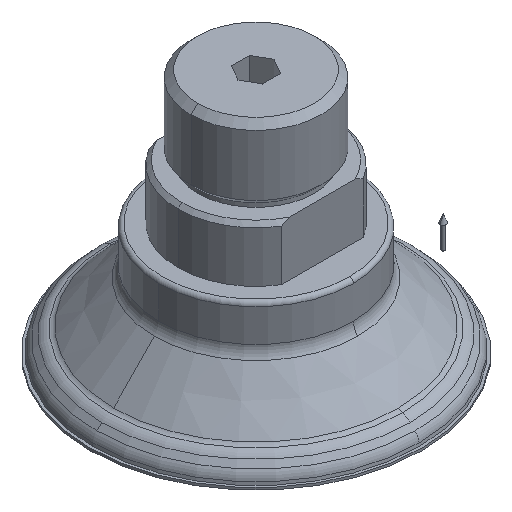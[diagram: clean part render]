
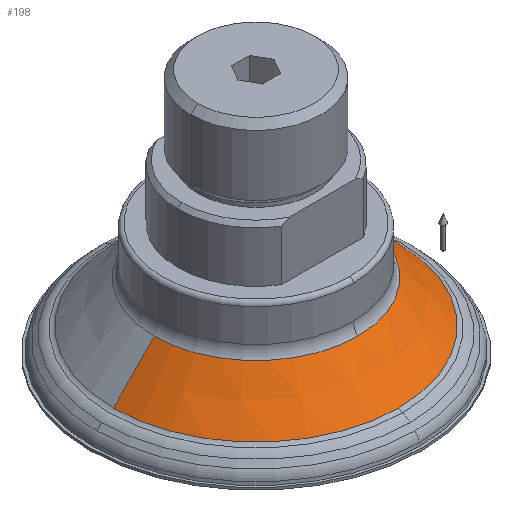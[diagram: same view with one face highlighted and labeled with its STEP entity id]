
A CAD part, isometric view. The second image highlights one B-rep face of the part: STEP entity #198.
In plain terms, the highlighted conical face has half-angle 44 degrees and reference radius 15.659 mm.
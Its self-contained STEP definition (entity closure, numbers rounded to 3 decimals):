
#198=ADVANCED_FACE('',(#478),#479,.T.);
#478=FACE_OUTER_BOUND('',#853,.T.);
#479=CONICAL_SURFACE('',#854,15.659,0.768);
#853=EDGE_LOOP('',(#1373,#1374,#1375,#1376,#1377,#1378));
#854=AXIS2_PLACEMENT_3D('',#1379,#1380,#1381);
#1373=ORIENTED_EDGE('',*,*,#2269,.F.);
#1374=ORIENTED_EDGE('',*,*,#2270,.T.);
#1375=ORIENTED_EDGE('',*,*,#2271,.T.);
#1376=ORIENTED_EDGE('',*,*,#2272,.F.);
#1377=ORIENTED_EDGE('',*,*,#2264,.F.);
#1378=ORIENTED_EDGE('',*,*,#2273,.F.);
#1379=CARTESIAN_POINT('',(0.0,0.,6.232));
#1380=DIRECTION('',(0.0,0.,-1.0));
#1381=DIRECTION('',(1.0,0.0,0.0));
#2264=EDGE_CURVE('',#2728,#2730,#2731,.T.);
#2269=EDGE_CURVE('',#2737,#2738,#2739,.T.);
#2270=EDGE_CURVE('',#2737,#2740,#2741,.T.);
#2271=EDGE_CURVE('',#2740,#2742,#2743,.T.);
#2272=EDGE_CURVE('',#2730,#2742,#2744,.T.);
#2273=EDGE_CURVE('',#2738,#2728,#2745,.T.);
#2728=VERTEX_POINT('',#3313);
#2730=VERTEX_POINT('',#3315);
#2731=CIRCLE('',#3316,18.257);
#2737=VERTEX_POINT('',#3322);
#2738=VERTEX_POINT('',#3323);
#2739=LINE('',#3324,#3325);
#2740=VERTEX_POINT('',#3326);
#2741=CIRCLE('',#3327,13.061);
#2742=VERTEX_POINT('',#3328);
#2743=CIRCLE('',#3329,13.061);
#2744=LINE('',#3330,#3331);
#2745=CIRCLE('',#3332,18.257);
#3313=CARTESIAN_POINT('',(0.,-18.257,3.542));
#3315=CARTESIAN_POINT('',(-18.257,0.,3.542));
#3316=AXIS2_PLACEMENT_3D('',#4006,#4007,#4008);
#3322=CARTESIAN_POINT('',(13.061,0.,8.923));
#3323=CARTESIAN_POINT('',(18.257,0.,3.542));
#3324=CARTESIAN_POINT('',(15.659,0.,6.232));
#3325=VECTOR('',#4018,1.0);
#3326=CARTESIAN_POINT('',(0.,-13.061,8.923));
#3327=AXIS2_PLACEMENT_3D('',#4019,#4020,#4021);
#3328=CARTESIAN_POINT('',(-13.061,0.,8.923));
#3329=AXIS2_PLACEMENT_3D('',#4022,#4023,#4024);
#3330=CARTESIAN_POINT('',(-15.659,0.,6.232));
#3331=VECTOR('',#4025,1.0);
#3332=AXIS2_PLACEMENT_3D('',#4026,#4027,#4028);
#4006=CARTESIAN_POINT('',(0.0,0.,3.542));
#4007=DIRECTION('',(0.0,0.,-1.0));
#4008=DIRECTION('',(1.0,0.0,0.0));
#4018=DIRECTION('',(0.695,0.,-0.719));
#4019=CARTESIAN_POINT('',(0.0,0.,8.923));
#4020=DIRECTION('',(0.0,0.,-1.0));
#4021=DIRECTION('',(1.0,0.0,0.0));
#4022=CARTESIAN_POINT('',(0.0,0.,8.923));
#4023=DIRECTION('',(0.0,0.,-1.0));
#4024=DIRECTION('',(1.0,0.0,0.0));
#4025=DIRECTION('',(0.695,0.,0.719));
#4026=CARTESIAN_POINT('',(0.0,0.,3.542));
#4027=DIRECTION('',(0.0,0.,-1.0));
#4028=DIRECTION('',(1.0,0.0,0.0));
